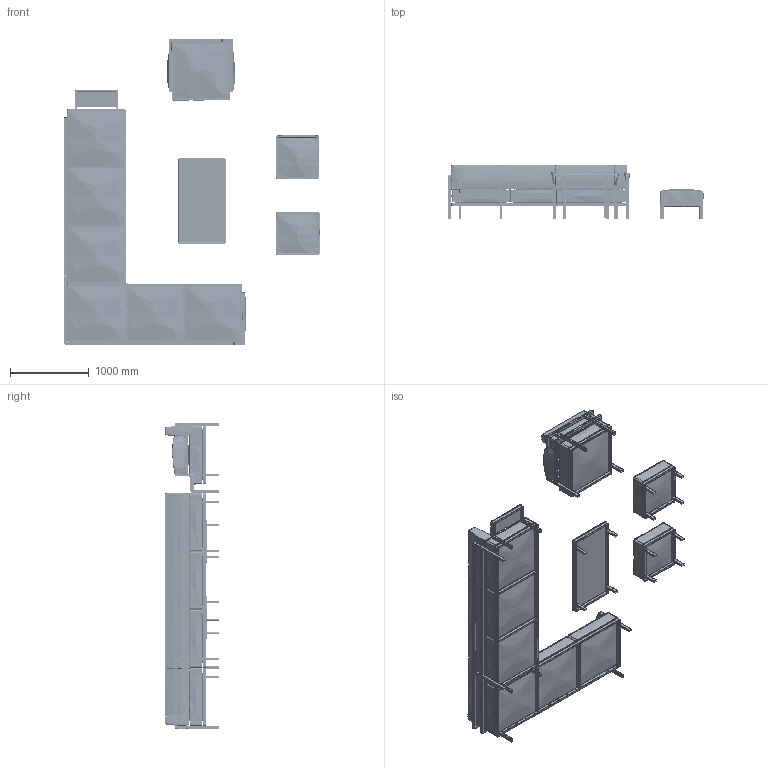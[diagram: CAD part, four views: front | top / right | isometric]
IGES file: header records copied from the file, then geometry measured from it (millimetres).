
Start section: SolidWorks IGES file using analytic representation for surfaces
Global section: file name: C:\Users\ibrahim\Desktop\sofa\sahne-1.IGS; native system: SolidWorks 2015; preprocessor: SolidWorks 2015; author: ibrahim; date: 180208.151521; units: millimetre
Bounding box: 3248.79 x 690.92 x 3896.22 mm (x, y, z)
Surface area: 33370231.4 mm2 (no closed solid volume)
Topology: 0 solids, 0 shells, 3693 faces, 44195 edges, 44195 vertices
Faces by surface type: bspline 2606, revolution 1087
